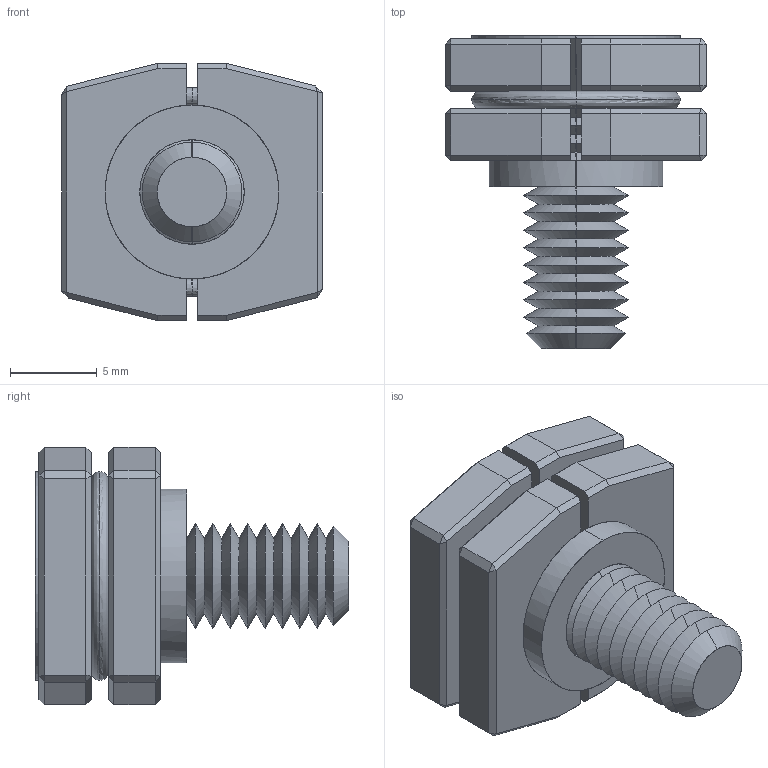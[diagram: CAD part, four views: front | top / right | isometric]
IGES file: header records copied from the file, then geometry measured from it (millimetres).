
Start section: SolidWorks IGES file using analytic representation for surfaces
Global section: file name: C:\Users\liam_\OneDrive\Documents\WORK\Work for WixRoyd\Job Files\J-00025 - Matt Davis CAD - 20191106\04. CAD Drawings\Wixroyd20191106\12454_v2\12454_v2_20191115_IGES\12454.W001A.igs; native system: SolidWorks 2017; preprocessor: SolidWorks 2017; author: liam_; date: 191115.170716; units: millimetre
Bounding box: 15 x 18 x 14.8 mm (x, y, z)
Surface area: 2043.9 mm2 (no closed solid volume)
Topology: 0 solids, 0 shells, 197 faces, 1146 edges, 1144 vertices
Faces by surface type: bspline 125, revolution 72
